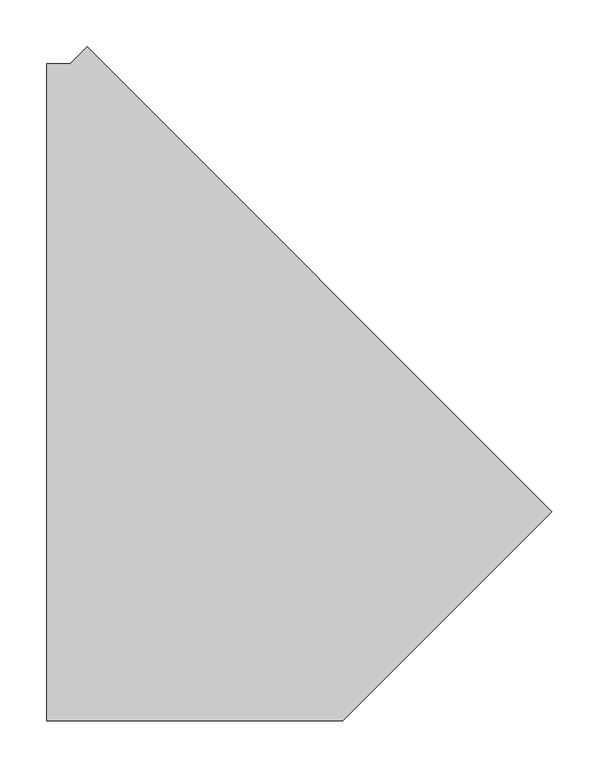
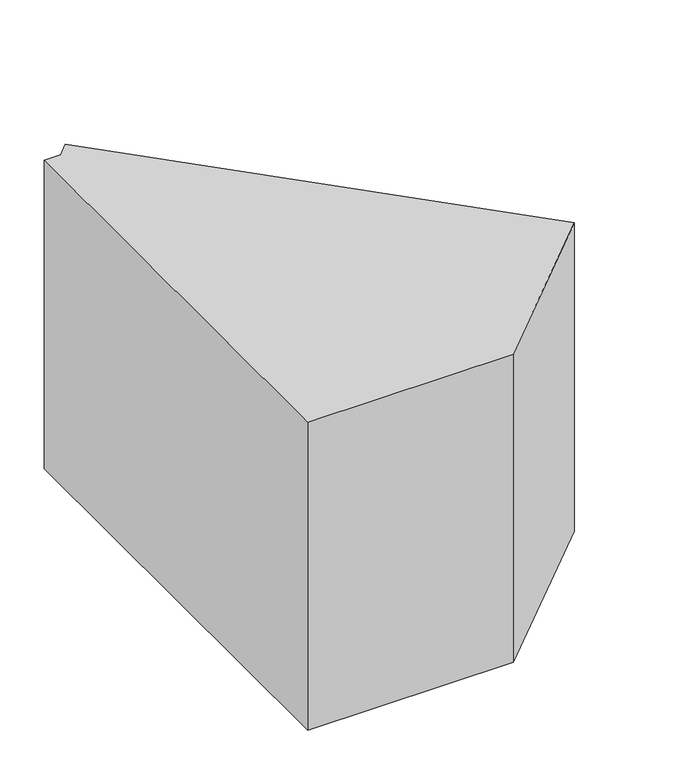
"""IFC4 building model written with IfcOpenShell, lengths in millimetres: duct fitting geometry, 2017_Codo_Climaver_Codo-Rectangular-Biselado : Codo_Rectangular_Biselado_Climaver."""

from ifc_helpers import new_model, si_unit, frame, origin, place, context, project, spatial, polyline, outline, extrude, source, transform, mapped, element, save


def duct_fitting_faa80f87(model_context):
    return source(origin(), model_context, "Body", "SweptSolid", [
        extrude(outline(polyline([(-169.9747468, -350.0), (-169.9747468, 350.0), (-144.9747468, 350.0), (-127.2970773, 367.6776695), (367.6776695, -127.2970773), (144.9747468, -350.0), (-169.9747468, -350.0)])), frame((0.0, 0.0, -250.0), z_axis=(0.0, 0.0, 1.0), x_axis=(1.0, 0.0, 0.0)), (0.0, 0.0, 1.0), 500.0),
    ])


if __name__ == "__main__":
    model = new_model("IFC4")
    model_context = context("Model", 3, world=origin())
    ifc_project = project(units=[si_unit("LENGTHUNIT", "METRE", prefix="MILLI")], contexts=[model_context])
    site = spatial("IfcSite", under=ifc_project)
    building = spatial("IfcBuilding", under=site)
    placement = place(None, origin())
    duct_fitting_shape = duct_fitting_faa80f87(model_context)
    element("IfcDuctFitting", 1, ObjectType="2017_Codo_Climaver_Codo-Rectangular-Biselado : Codo_Rectangular_Biselado_Climaver", at=placement, inside=building, context=model_context, shape_type="MappedRepresentation", body=[
        mapped(duct_fitting_shape, transform((0.0, 0.0, 0.0), x_axis=(1.0, 0.0, 0.0), y_axis=(0.0, 1.0, 0.0), z_axis=(0.0, 0.0, 1.0))),
    ])
    save(model, "model.ifc")
